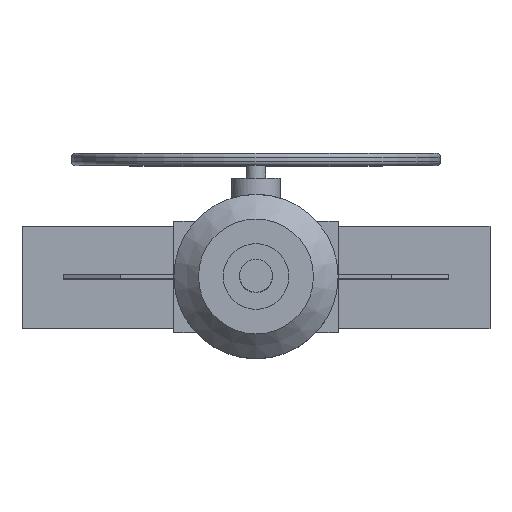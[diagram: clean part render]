
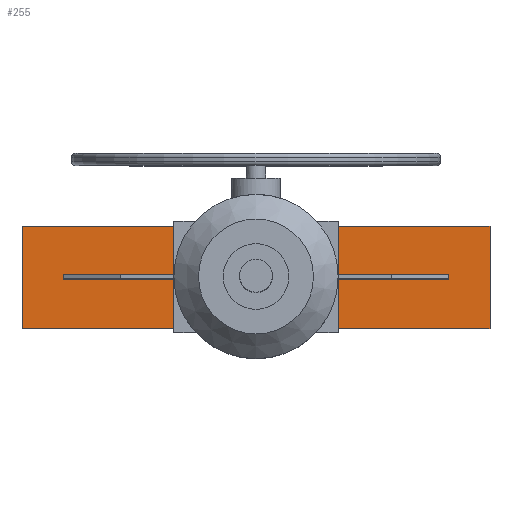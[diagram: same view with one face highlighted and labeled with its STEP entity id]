
A CAD part, top view. The second image highlights one B-rep face of the part: STEP entity #255.
In plain terms, the highlighted planar face has unit normal (0, 0, 1).
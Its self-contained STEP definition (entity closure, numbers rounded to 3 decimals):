
#255=ADVANCED_FACE('',(#2288,#2290),#2292,.T.);
#2288=FACE_BOUND('',#2289,.T.);
#2289=EDGE_LOOP('',(#4006,#4007,#4008,#4009,#4010,#4011,#4012,#4013));
#2290=FACE_BOUND('',#2291,.T.);
#2291=EDGE_LOOP('',(#4014,#4015,#4016,#4017));
#2292=PLANE('',#2293);
#2293=AXIS2_PLACEMENT_3D('',#2294,#2295,#2296);
#2294=CARTESIAN_POINT('',(0.,0.,430.));
#2295=DIRECTION('',(0.,0.,1.));
#2296=DIRECTION('',(1.,0.,0.));
#4006=ORIENTED_EDGE('',*,*,#4994,.F.);
#4007=ORIENTED_EDGE('',*,*,#4992,.T.);
#4008=ORIENTED_EDGE('',*,*,#5001,.T.);
#4009=ORIENTED_EDGE('',*,*,#4983,.T.);
#4010=ORIENTED_EDGE('',*,*,#4997,.F.);
#4011=ORIENTED_EDGE('',*,*,#4987,.T.);
#4012=ORIENTED_EDGE('',*,*,#5002,.T.);
#4013=ORIENTED_EDGE('',*,*,#4988,.T.);
#4014=ORIENTED_EDGE('',*,*,#5003,.F.);
#4015=ORIENTED_EDGE('',*,*,#5004,.F.);
#4016=ORIENTED_EDGE('',*,*,#5005,.F.);
#4017=ORIENTED_EDGE('',*,*,#5006,.F.);
#4983=EDGE_CURVE('',#5533,#5501,#5534,.T.);
#4987=EDGE_CURVE('',#5517,#5539,#5541,.T.);
#4988=EDGE_CURVE('',#5542,#5523,#5543,.T.);
#4992=EDGE_CURVE('',#5507,#5548,#5550,.T.);
#4994=EDGE_CURVE('',#5507,#5523,#5552,.T.);
#4997=EDGE_CURVE('',#5517,#5501,#5556,.T.);
#5001=EDGE_CURVE('',#5548,#5533,#5563,.T.);
#5002=EDGE_CURVE('',#5539,#5542,#5564,.T.);
#5003=EDGE_CURVE('',#5565,#5566,#5567,.T.);
#5004=EDGE_CURVE('',#5568,#5565,#5569,.F.);
#5005=EDGE_CURVE('',#5570,#5568,#5571,.T.);
#5006=EDGE_CURVE('',#5566,#5570,#5572,.T.);
#5501=VERTEX_POINT('',#6446);
#5507=VERTEX_POINT('',#6458);
#5517=VERTEX_POINT('',#6480);
#5523=VERTEX_POINT('',#6492);
#5533=VERTEX_POINT('',#6516);
#5534=LINE('',#6517,#6518);
#5539=VERTEX_POINT('',#6528);
#5541=LINE('',#6532,#6533);
#5542=VERTEX_POINT('',#6535);
#5543=LINE('',#6536,#6537);
#5548=VERTEX_POINT('',#6547);
#5550=LINE('',#6551,#6552);
#5552=LINE('',#6557,#6558);
#5556=LINE('',#6568,#6569);
#5563=LINE('',#6650,#6651);
#5564=LINE('',#6653,#6654);
#5565=VERTEX_POINT('',#6656);
#5566=VERTEX_POINT('',#6657);
#5567=LINE('',#6658,#6659);
#5568=VERTEX_POINT('',#6661);
#5569=LINE('',#6662,#6663);
#5570=VERTEX_POINT('',#6665);
#5571=LINE('',#6666,#6667);
#5572=LINE('',#6669,#6670);
#6446=CARTESIAN_POINT('',(100.,62.5,430.));
#6458=CARTESIAN_POINT('',(100.,-62.5,430.));
#6480=CARTESIAN_POINT('',(-100.,62.5,430.));
#6492=CARTESIAN_POINT('',(-100.,-62.5,430.));
#6516=CARTESIAN_POINT('',(285.,62.5,430.));
#6517=CARTESIAN_POINT('',(285.,62.5,430.));
#6518=VECTOR('',#6519,1.);
#6519=DIRECTION('',(-1.,0.,0.));
#6528=CARTESIAN_POINT('',(-285.,62.5,430.));
#6532=CARTESIAN_POINT('',(-100.,62.5,430.));
#6533=VECTOR('',#6534,1.);
#6534=DIRECTION('',(-1.,0.,0.));
#6535=CARTESIAN_POINT('',(-285.,-62.5,430.));
#6536=CARTESIAN_POINT('',(-285.,-62.5,430.));
#6537=VECTOR('',#6538,1.);
#6538=DIRECTION('',(1.,0.,0.));
#6547=CARTESIAN_POINT('',(285.,-62.5,430.));
#6551=CARTESIAN_POINT('',(100.,-62.5,430.));
#6552=VECTOR('',#6553,1.);
#6553=DIRECTION('',(1.,0.,0.));
#6557=CARTESIAN_POINT('',(100.,-62.5,430.));
#6558=VECTOR('',#6559,1.);
#6559=DIRECTION('',(-1.,0.,0.));
#6568=CARTESIAN_POINT('',(-100.,62.5,430.));
#6569=VECTOR('',#6570,1.);
#6570=DIRECTION('',(1.,0.,0.));
#6650=CARTESIAN_POINT('',(285.,-62.5,430.));
#6651=VECTOR('',#6652,1.);
#6652=DIRECTION('',(0.,1.,0.));
#6653=CARTESIAN_POINT('',(-285.,62.5,430.));
#6654=VECTOR('',#6655,1.);
#6655=DIRECTION('',(0.,-1.,0.));
#6656=CARTESIAN_POINT('',(-235.,2.5,430.));
#6657=CARTESIAN_POINT('',(-235.,-2.5,430.));
#6658=CARTESIAN_POINT('',(-235.,2.5,430.));
#6659=VECTOR('',#6660,1.);
#6660=DIRECTION('',(0.,-1.,0.));
#6661=CARTESIAN_POINT('',(235.,2.5,430.));
#6662=CARTESIAN_POINT('',(-235.,2.5,430.));
#6663=VECTOR('',#6664,1.);
#6664=DIRECTION('',(1.,0.,0.));
#6665=CARTESIAN_POINT('',(235.,-2.5,430.));
#6666=CARTESIAN_POINT('',(235.,-2.5,430.));
#6667=VECTOR('',#6668,1.);
#6668=DIRECTION('',(0.,1.,0.));
#6669=CARTESIAN_POINT('',(-235.,-2.5,430.));
#6670=VECTOR('',#6671,1.);
#6671=DIRECTION('',(1.,0.,0.));
